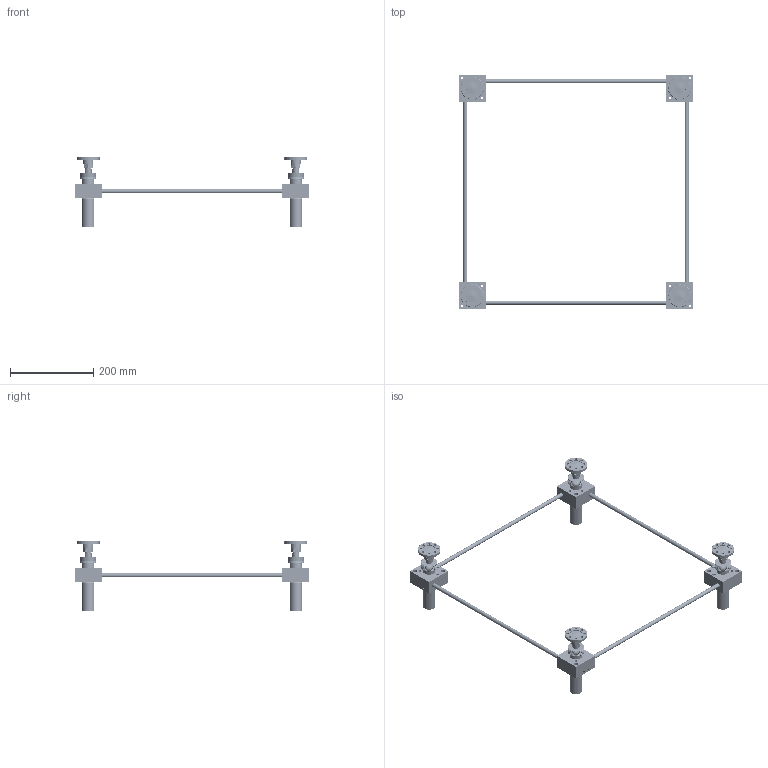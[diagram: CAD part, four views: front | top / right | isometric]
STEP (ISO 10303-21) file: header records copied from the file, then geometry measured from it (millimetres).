
FILE_DESCRIPTION(('STEP AP203'),'1');
FILE_NAME('SP100FCJ-500x500-50ST_CAP.stp','2016-08-08T01:31:26',(' '),(' '),'Spatial InterOp 3D',' ',' ');
FILE_SCHEMA(('CONFIG_CONTROL_DESIGN'));
Length unit declared in the file: millimetre
Products named in the file (127): SP100FCJ-500x500-50ST_CAP; Rack Gear(SP-100FC); Flange.1-Part; Flange.1; Joint.1; Nut.1; Flange.2-Part; Flange.2; Joint.2; Nut.2; Flange.3-Part; Flange.3; Joint.3; Nut.3; Flange.4-Part; Flange.4; Joint.4; Nut.4; Bellow(SP-100); Body.1-Part; Bolt; Gear Box.1(Upper); Gear Box.1(Lower); Body_stand by; SP100; LABEL-B.1; ___; 파트18; __ ; Body.2-Part; Gear Box.2(Upper); Gear Box.2(Lower); Body.3-Part; Gear Box.3(Upper); Gear Box.3(Lower); Body.4-Part; Gear Box.4(Upper); Gear Box.4(Lower); Cap.1-Part; Cap.1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
Assembly tree (134 placements, depth 6):
  SP100FCJ-500x500-50ST_CAP
    Rack Gear(SP-100FC)  x4
    Flange.1-Part
      Flange.1
      Joint.1
      Nut.1
    Flange.2-Part
      Flange.2
      Joint.2
      Nut.2
    Flange.3-Part
      Flange.3
      Joint.3
      Nut.3
    Flange.4-Part
      Flange.4
      Joint.4
      Nut.4
    Bellow(SP-100)  x4
    Body.1-Part
      Bolt
      Bolt
      Bolt
      Gear Box.1(Upper)
      Gear Box.1(Lower)
        Body_stand by
        Body_stand by
        Body_stand by
        Body_stand by
        Body_stand by
        Body_stand by
        Body_stand by
        Body_stand by
        Body_stand by
        Body_stand by
        Body_stand by
        Body_stand by
        Body_stand by
      __ 
        ___
          SP100
            LABEL-B.1
          파트18
    Body.2-Part
      Bolt
      Bolt
      Bolt
      Gear Box.2(Upper)
      Gear Box.2(Lower)
        Body_stand by
        Body_stand by
        Body_stand by
        Body_stand by
        Body_stand by
        Body_stand by
      __ 
        ___
          SP100
            LABEL-B.1
          파트18
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Bounding box: 565.35 x 565.35 x 170 mm (x, y, z)
Volume: 615595.3 mm3; surface area: 412084.9 mm2
Topology: 104 solids, 654 shells, 9610 faces, 28619 edges, 20003 vertices
Faces by surface type: plane 8761, cylinder 508, cone 148, bspline 121, torus 68, sphere 4
Full cylindrical faces by diameter (mm): 1.525 x8, 5 x12, 6 x16, 6.4 x20, 7 x16, 10 x4, 11 x32, 13.8 x4, 15 x16, 15.4 x4, 17 x12, 17.2 x4, 17.8 x4, 23 x4, 24 x4, 25 x12, 25.9 x4, 26 x12, 26.2 x4, 27 x4, 28 x16, 29 x4, 30 x8, 37.5 x20, 55 x4
Entity records: 317759 total; most frequent: CARTESIAN_POINT 72143, ORIENTED_EDGE 50013, DIRECTION 45639, EDGE_CURVE 26482, LINE 23977, VECTOR 23977, VERTEX_POINT 18806, AXIS2_PLACEMENT_3D 10831
